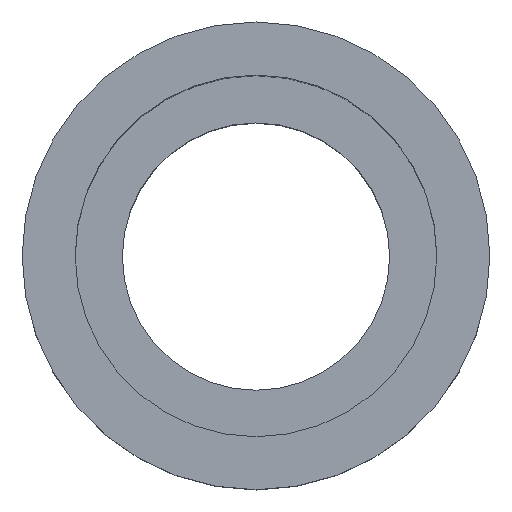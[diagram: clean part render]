
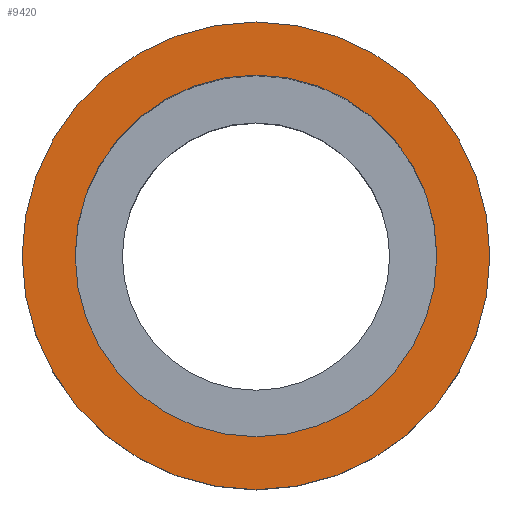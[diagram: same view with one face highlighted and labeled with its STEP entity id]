
A CAD part, top view. The second image highlights one B-rep face of the part: STEP entity #9420.
In plain terms, the highlighted planar face has unit normal (0, 0, 1) as drawn and (1, 0, 0) by its records, which use the part's own axes.
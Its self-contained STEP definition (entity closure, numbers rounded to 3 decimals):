
#5830=CARTESIAN_POINT('',(164.812,24.567,0.));
#5840=VERTEX_POINT('',#5830);
#6020=CARTESIAN_POINT('',(164.812,80.567,0.));
#6030=VERTEX_POINT('',#6020);
#6060=CARTESIAN_POINT('',(164.812,52.567,0.));
#6070=DIRECTION('',(-1.,-0.,0.));
#6080=DIRECTION('',(0.,1.,0.));
#6090=AXIS2_PLACEMENT_3D('',#6060,#6070,#6080);
#6100=CIRCLE('',#6090,28.);
#6110=EDGE_CURVE('',#5840,#6030,#6100,.T.);
#9170=CARTESIAN_POINT('',(164.812,25.992,0.));
#9180=DIRECTION('',(-1.,0.,0.));
#9190=DIRECTION('',(0.,1.,0.));
#9200=AXIS2_PLACEMENT_3D('',#9170,#9180,#9190);
#9210=PLANE('',#9200);
#9220=CARTESIAN_POINT('',(164.812,52.567,0.));
#9230=DIRECTION('',(1.,0.,0.));
#9240=DIRECTION('',(0.,0.,-1.));
#9250=AXIS2_PLACEMENT_3D('',#9220,#9230,#9240);
#9260=CIRCLE('',#9250,21.65);
#9270=CARTESIAN_POINT('',(164.812,52.567,-21.65));
#9280=VERTEX_POINT('',#9270);
#9290=CARTESIAN_POINT('',(164.812,52.567,21.65));
#9300=VERTEX_POINT('',#9290);
#9310=EDGE_CURVE('',#9280,#9300,#9260,.T.);
#9320=ORIENTED_EDGE('',*,*,#9310,.F.);
#9330=EDGE_CURVE('',#9300,#9280,#9260,.T.);
#9340=ORIENTED_EDGE('',*,*,#9330,.F.);
#9350=EDGE_LOOP('',(#9340,#9320));
#9360=FACE_BOUND('',#9350,.T.);
#9370=EDGE_CURVE('',#6030,#5840,#6100,.T.);
#9380=ORIENTED_EDGE('',*,*,#9370,.F.);
#9390=ORIENTED_EDGE('',*,*,#6110,.F.);
#9400=EDGE_LOOP('',(#9390,#9380));
#9410=FACE_OUTER_BOUND('',#9400,.T.);
#9420=ADVANCED_FACE('',(#9360,#9410),#9210,.F.);
